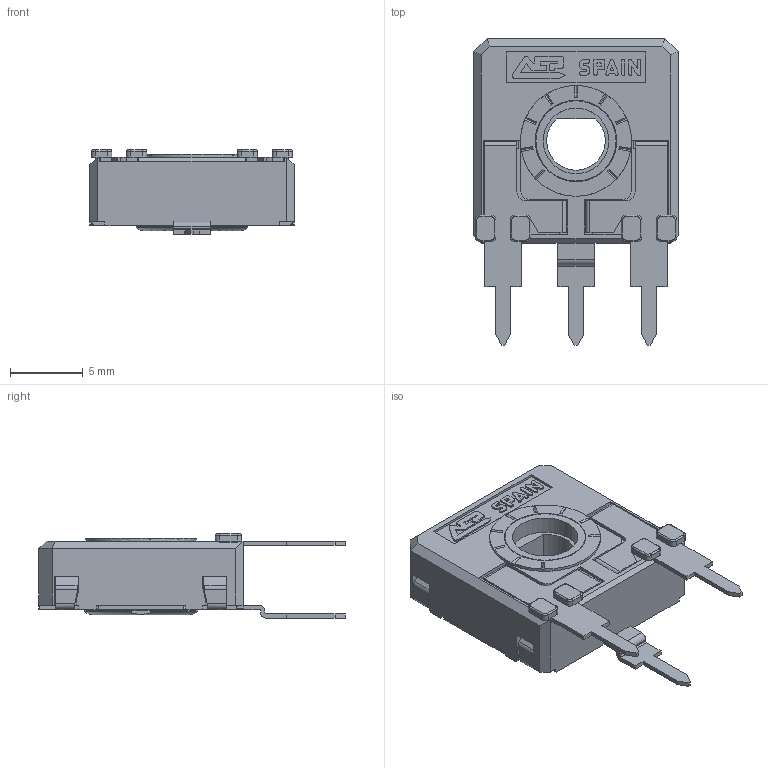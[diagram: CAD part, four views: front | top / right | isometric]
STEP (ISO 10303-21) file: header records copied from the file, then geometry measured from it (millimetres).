
FILE_DESCRIPTION(/* description */ (''),/* implementation_level */ '2;1');
FILE_NAME(/* name */ 'C:\Users\CEM\Desktop\ENVIAR\TRANSICION 3D CATALOGOS\RS14FH5 RT-RO .stp',/* time_stamp */ '2025-12-10T10:39:55+01:00',/* author */ ('CEM'),/* organization */ (''),/* preprocessor_version */ 'ST-DEVELOPER v16.13',/* originating_system */ 'Autodesk Inventor 2018',/* authorisation */ '');
FILE_SCHEMA (('AUTOMOTIVE_DESIGN { 1 0 10303 214 3 1 1 }'));
Length unit declared in the file: millimetre
Products named in the file (1): CARCASA CA14 PGA
Bounding box: 14 x 21 x 5.8 mm (x, y, z)
Volume: 520 mm3; surface area: 1435.4 mm2
Topology: 1 solids, 1 shells, 661 faces, 1857 edges, 1193 vertices
Faces by surface type: plane 490, cylinder 134, torus 23, bspline 8, cone 6
Full cylindrical faces by diameter (mm): 4.5 x1, 5.5 x1, 5.6 x1, 5.752 x1, 6.8 x1, 7.6 x1
Entity records: 21353 total; most frequent: CARTESIAN_POINT 3904, ORIENTED_EDGE 3684, DIRECTION 3474, EDGE_CURVE 1842, LINE 1462, VECTOR 1462, VERTEX_POINT 1188, AXIS2_PLACEMENT_3D 1006
